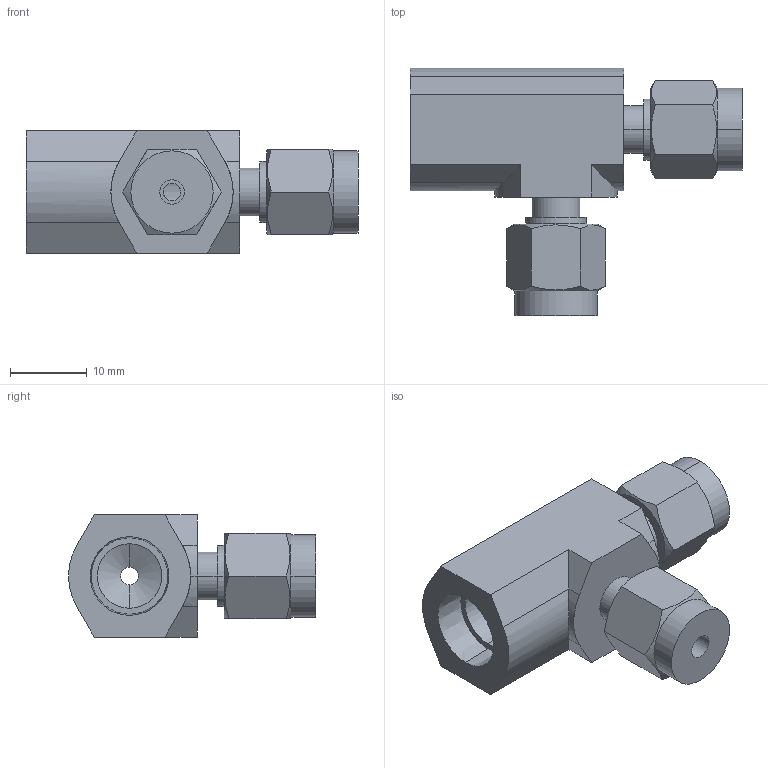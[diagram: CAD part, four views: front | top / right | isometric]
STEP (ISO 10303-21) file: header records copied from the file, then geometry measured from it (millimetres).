
FILE_DESCRIPTION (( 'STEP AP203' ), '1' );
FILE_NAME ('DTF 02-02 SS.STEP', '2009-09-08T09:44:27', ( ' ' ), ( '' ), 'SwSTEP 2.0', 'SolidWorks 2008', '' );
FILE_SCHEMA (( 'CONFIG_CONTROL_DESIGN' ));
Length unit declared in the file: millimetre
Products named in the file (1): DTF 02-02 SS
Bounding box: 43.2 x 32.15 x 15.9 mm (x, y, z)
Volume: 7363.4 mm3; surface area: 4292 mm2
Topology: 1 solids, 1 shells, 76 faces, 185 edges, 120 vertices
Faces by surface type: plane 36, cylinder 28, cone 12
Entity records: 2503 total; most frequent: CARTESIAN_POINT 649, ORIENTED_EDGE 370, DIRECTION 361, EDGE_CURVE 185, AXIS2_PLACEMENT_3D 136, VERTEX_POINT 120, EDGE_LOOP 89, VECTOR 89
